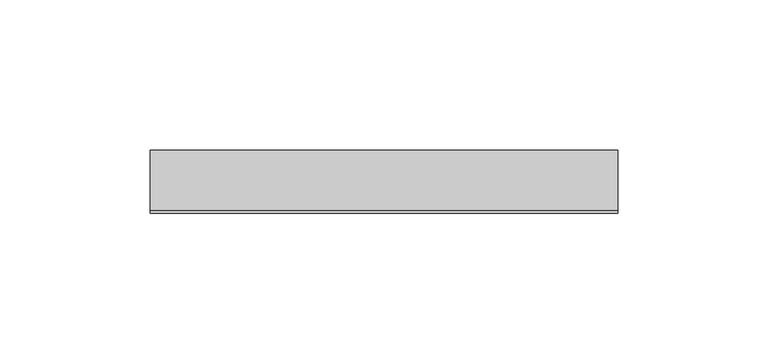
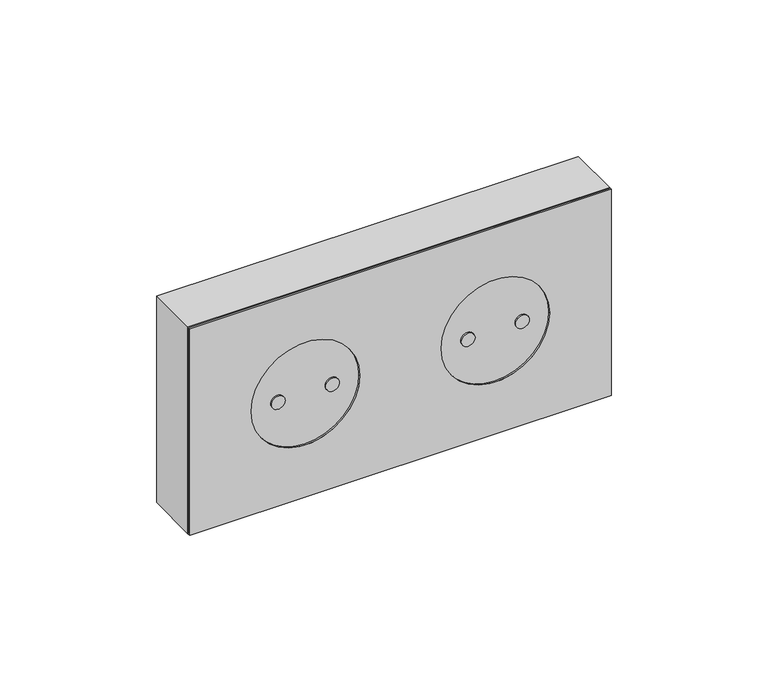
"""IFC4 building model written with IfcOpenShell, lengths in millimetres: proxy geometry, ZYR_05.02.02 Presa Doble : 05 Toma Doble Estanca."""

import ifcopenshell
import ifcopenshell.guid

model = None  # the IFC model being written
_history = None  # IfcOwnerHistory: only IFC2X3 demands one
_inside = {}  # id of a spatial element -> (the spatial element, [elements in it])
_under = {}  # id of a project, library or spatial element -> (it, [spatial elements below it])
_declared = {}  # id of a project -> (the project, [libraries it declares])
_typed = {}  # id of a type object -> (the type object, [elements of that type])
_made_of = {}  # id of a material, layer set ... -> (it, [elements and type objects made of it])


def new_model(schema):
    """Start an empty IFC model of exactly this schema.

    Asked for "IFC4X3", IfcOpenShell would pick the latest addendum, in which some entities
    have other attributes; the version numbers below select the first issue.
    IFC2X3 requires an IfcOwnerHistory on every rooted entity: one is made here for all.
    """
    global model, _history
    if schema == "IFC4X3":
        model = ifcopenshell.file(schema_version=(4, 3, 0, 0))
    else:
        model = ifcopenshell.file(schema=schema)
    _inside.clear()
    _under.clear()
    _declared.clear()
    _typed.clear()
    _made_of.clear()
    _history = None
    if model.schema == "IFC2X3":
        org = make("IfcOrganization", Name="unknown")
        user = make(
            "IfcPersonAndOrganization",
            ThePerson=make("IfcPerson", FamilyName="unknown"),
            TheOrganization=org,
        )
        app = make(
            "IfcApplication",
            ApplicationDeveloper=org,
            Version="unknown",
            ApplicationFullName="unknown",
            ApplicationIdentifier="unknown",
        )
        _history = make(
            "IfcOwnerHistory",
            OwningUser=user,
            OwningApplication=app,
            ChangeAction="ADDED",
            CreationDate=0,
        )
    return model


def make(cls, **values):
    """One entity of the class cls with the attributes given. An attribute that is None is left unset."""
    return model.create_entity(
        cls, **{name: value for name, value in values.items() if value is not None}
    )


def rooted(cls, **values):
    """An entity with a GlobalId (a new one), such as an element, a storey or a relation."""
    return make(cls, GlobalId=ifcopenshell.guid.new(), OwnerHistory=_history, **values)


def si_unit(unit_type, name, prefix=None):
    """IfcSIUnit, for example si_unit("LENGTHUNIT", "METRE", prefix="MILLI")."""
    return make("IfcSIUnit", UnitType=unit_type, Prefix=prefix, Name=name)


def assignment(units):
    """IfcUnitAssignment: the units of a project."""
    return None if units is None else make("IfcUnitAssignment", Units=units)


def point(xyz):
    """IfcCartesianPoint."""
    return None if xyz is None else make("IfcCartesianPoint", Coordinates=xyz)


def direction(xyz):
    """IfcDirection."""
    return None if xyz is None else make("IfcDirection", DirectionRatios=xyz)


def frame(location, z_axis=None, x_axis=None):
    """IfcAxis2Placement3D, a coordinate frame: its origin and axes. An axis left out is left unset."""
    return make(
        "IfcAxis2Placement3D",
        Location=point(location),
        Axis=direction(z_axis),
        RefDirection=direction(x_axis),
    )


def frame_2d(location, x_axis=None):
    """IfcAxis2Placement2D, a coordinate frame in the plane: its origin and x axis."""
    return make(
        "IfcAxis2Placement2D", Location=point(location), RefDirection=direction(x_axis)
    )


def origin():
    """The frame at (0, 0, 0) with its axes left unset."""
    return frame((0.0, 0.0, 0.0))


def place(relative_to, where):
    """IfcLocalPlacement: puts the frame where relative to a parent placement (None: the world)."""
    return make(
        "IfcLocalPlacement", PlacementRelTo=relative_to, RelativePlacement=where
    )


def context(
    kind, dimensions, precision=None, world=None, true_north=None, identifier=None
):
    """IfcGeometricRepresentationContext, for example the 3D "Model" context."""
    return make(
        "IfcGeometricRepresentationContext",
        ContextIdentifier=identifier,
        ContextType=kind,
        CoordinateSpaceDimension=dimensions,
        Precision=precision,
        WorldCoordinateSystem=world,
        TrueNorth=true_north,
    )


def project(units=None, contexts=None):
    """IfcProject with its units and contexts."""
    return rooted(
        "IfcProject",
        Name="project",
        RepresentationContexts=contexts,
        UnitsInContext=assignment(units),
    )


def spatial(cls, under=None, at=None, **own):
    """A site, building, storey or space (cls), placed at a placement, below another one or the project."""
    s = rooted(cls, ObjectPlacement=at, **own)
    if under is not None:
        _under.setdefault(under.id(), (under, []))[1].append(s)
    return s


def polyline(points):
    """IfcPolyline through the points."""
    return make("IfcPolyline", Points=[point(p) for p in points])


def circle_curve(where, radius):
    """IfcCircle in the frame where."""
    return make("IfcCircle", Position=where, Radius=radius)


def trimmed(basis, trim1, trim2, sense, master):
    """IfcTrimmedCurve: the piece of a basis curve between two trims."""
    return make(
        "IfcTrimmedCurve",
        BasisCurve=basis,
        Trim1=trim1,
        Trim2=trim2,
        SenseAgreement=sense,
        MasterRepresentation=master,
    )


def segment(curve, same_sense, transition):
    """IfcCompositeCurveSegment."""
    return make(
        "IfcCompositeCurveSegment",
        Transition=transition,
        SameSense=same_sense,
        ParentCurve=curve,
    )


def composite_curve(segments, self_intersect=None):
    """IfcCompositeCurve: segments joined end to end."""
    return make("IfcCompositeCurve", Segments=segments, SelfIntersect=self_intersect)


def outline(outer, holes=None, kind="AREA"):
    """IfcArbitraryClosedProfileDef: a profile drawn as a closed curve; with holes, ...WithVoids."""
    if holes is None:
        return make("IfcArbitraryClosedProfileDef", ProfileType=kind, OuterCurve=outer)
    return make(
        "IfcArbitraryProfileDefWithVoids",
        ProfileType=kind,
        OuterCurve=outer,
        InnerCurves=holes,
    )


def extrude(swept, where, along, depth):
    """IfcExtrudedAreaSolid: the profile swept, set in the frame where, extruded along a direction by depth."""
    return make(
        "IfcExtrudedAreaSolid",
        SweptArea=swept,
        Position=where,
        ExtrudedDirection=direction(along),
        Depth=depth,
    )


def shape(context_of_items, identifier, shape_type, items):
    """IfcShapeRepresentation: the items that make up one representation, for example the "Body"."""
    return make(
        "IfcShapeRepresentation",
        ContextOfItems=context_of_items,
        RepresentationIdentifier=identifier,
        RepresentationType=shape_type,
        Items=items,
    )


def source(mapping_origin, context_of_items, identifier, shape_type, items):
    """IfcRepresentationMap: a shape defined once, which mapped items show again and again."""
    return make(
        "IfcRepresentationMap",
        MappingOrigin=mapping_origin,
        MappedRepresentation=shape(context_of_items, identifier, shape_type, items),
    )


def transform(
    local_origin,
    x_axis=None,
    y_axis=None,
    z_axis=None,
    scale=None,
    scale2=None,
    scale3=None,
    uniform=True,
):
    """IfcCartesianTransformationOperator3D, or its non-uniform kind. x_axis, y_axis, z_axis: its Axis1, 2, 3."""
    if uniform:
        return make(
            "IfcCartesianTransformationOperator3D",
            Axis1=direction(x_axis),
            Axis2=direction(y_axis),
            LocalOrigin=point(local_origin),
            Scale=scale,
            Axis3=direction(z_axis),
        )
    return make(
        "IfcCartesianTransformationOperator3DnonUniform",
        Axis1=direction(x_axis),
        Axis2=direction(y_axis),
        LocalOrigin=point(local_origin),
        Scale=scale,
        Axis3=direction(z_axis),
        Scale2=scale2,
        Scale3=scale3,
    )


def mapped(mapping_source, mapping_target):
    """IfcMappedItem: shows the shape of a source again, moved by a transform."""
    return make(
        "IfcMappedItem", MappingSource=mapping_source, MappingTarget=mapping_target
    )


def made_of(thing, what):
    """Note that an element or type object is made of a material, layer set ...; save() writes the relation."""
    if what is not None:
        _made_of.setdefault(what.id(), (what, []))[1].append(thing)
    return thing


def element(
    cls,
    number,
    at=None,
    inside=None,
    cuts=None,
    type_object=None,
    material=None,
    context=None,
    identifier="Body",
    shape_type=None,
    held_by="IfcProductDefinitionShape",
    body=None,
    shapes=None,
    **own,
):
    """One element of the class cls, such as IfcWall. Its Tag is "e" and its number.

    at: its placement. inside: the storey or other place that contains it. cuts: it is an
    opening in that element (IfcRelVoidsElement). A single representation is given by context,
    identifier, shape_type and body (its items); several are given by shapes. held_by: the class
    of the entity that holds the representations. save() writes the other relations.
    """
    e = rooted(cls, Tag="e%d" % number, ObjectPlacement=at, **own)
    if body is not None:
        shapes = [shape(context, identifier, shape_type, body)]
    if shapes is not None:
        e.Representation = make(held_by, Representations=shapes)
    if inside is not None:
        _inside.setdefault(inside.id(), (inside, []))[1].append(e)
    if cuts is not None:
        rooted(
            "IfcRelVoidsElement", RelatingBuildingElement=cuts, RelatedOpeningElement=e
        )
    if type_object is not None:
        _typed.setdefault(type_object.id(), (type_object, []))[1].append(e)
    return made_of(e, material)


def aggregate(whole, parts):
    """IfcRelAggregates: a whole, such as a stair, and the parts it consists of."""
    return rooted("IfcRelAggregates", RelatingObject=whole, RelatedObjects=parts)


def save(model, path):
    """Write the relations noted so far, then the file.

    IfcRelAggregates (storeys below a building ...), IfcRelContainedInSpatialStructure (elements
    in a storey), IfcRelDefinesByType, IfcRelAssociatesMaterial and IfcRelDeclares: one each for
    every whole, place, type object, material and project.
    """
    for whole, parts in _under.values():
        aggregate(whole, parts)
    for where, things in _inside.values():
        rooted(
            "IfcRelContainedInSpatialStructure",
            RelatedElements=things,
            RelatingStructure=where,
        )
    for kind, things in _typed.values():
        rooted("IfcRelDefinesByType", RelatedObjects=things, RelatingType=kind)
    for what, things in _made_of.values():
        rooted("IfcRelAssociatesMaterial", RelatedObjects=things, RelatingMaterial=what)
    for by, libraries in _declared.values():
        rooted("IfcRelDeclares", RelatingContext=by, RelatedDefinitions=libraries)
    model.write(path)


def electrical_fixtures_07ad5d65(model_context):
    return source(origin(), model_context, "Body", "SweptSolid", [
        extrude(outline(polyline([(77.75, -20.0), (-77.75, -20.0), (-77.75, 0.0), (77.75, 0.0), (77.75, -20.0)])), frame((0.0, 0.0, -40.25), z_axis=(0.0, 0.0, 1.0), x_axis=(1.0, 0.0, 0.0)), (0.0, 0.0, 1.0), 80.5),
        extrude(outline(polyline([(-40.25, -77.75), (-40.25, 77.75), (40.25, 77.75), (40.25, -77.75), (-40.25, -77.75)]), holes=[composite_curve([segment(trimmed(circle_curve(frame_2d((0.0, -35.0004502)), 20.0), [point((0.0, -55.0004502))], [point((0.0, -15.0004502))], True, "CARTESIAN"), True, "CONTINUOUS"), segment(trimmed(circle_curve(frame_2d((0.0, -35.0004502)), 20.0), [point((0.0, -15.0004502))], [point((0.0, -55.0004502))], True, "CARTESIAN"), True, "CONTINUOUS")], self_intersect=False), composite_curve([segment(trimmed(circle_curve(frame_2d((0.0, 35.0004502)), 20.0), [point((0.0, 15.0004502))], [point((0.0, 55.0004502))], True, "CARTESIAN"), True, "CONTINUOUS"), segment(trimmed(circle_curve(frame_2d((0.0, 35.0004502)), 20.0), [point((0.0, 55.0004502))], [point((0.0, 15.0004502))], True, "CARTESIAN"), True, "CONTINUOUS")], self_intersect=False)]), frame((0.0, -21.0, 0.0), z_axis=(0.0, 1.0, 0.0), x_axis=(0.0, 0.0, 1.0)), (0.0, 0.0, 1.0), 1.0),
        extrude(outline(composite_curve([segment(trimmed(circle_curve(frame_2d((0.0, -45.0004502)), 2.5), [point((0.0, -47.5004502))], [point((0.0, -42.5004502))], False, "CARTESIAN"), True, "CONTINUOUS"), segment(trimmed(circle_curve(frame_2d((0.0, -45.0004502)), 2.5), [point((0.0, -42.5004502))], [point((0.0, -47.5004502))], False, "CARTESIAN"), True, "CONTINUOUS")], self_intersect=False)), frame((0.0, -21.0, 0.0), z_axis=(0.0, 1.0, 0.0), x_axis=(0.0, 0.0, 1.0)), (0.0, 0.0, 1.0), 1.0),
        extrude(outline(composite_curve([segment(trimmed(circle_curve(frame_2d((0.0, -25.0004502)), 2.5), [point((0.0, -27.5004502))], [point((0.0, -22.5004502))], False, "CARTESIAN"), True, "CONTINUOUS"), segment(trimmed(circle_curve(frame_2d((0.0, -25.0004502)), 2.5), [point((0.0, -22.5004502))], [point((0.0, -27.5004502))], False, "CARTESIAN"), True, "CONTINUOUS")], self_intersect=False)), frame((0.0, -21.0, 0.0), z_axis=(0.0, 1.0, 0.0), x_axis=(0.0, 0.0, 1.0)), (0.0, 0.0, 1.0), 1.0),
        extrude(outline(composite_curve([segment(trimmed(circle_curve(frame_2d((0.0, 25.0004502)), 2.5), [point((0.0, 22.5004502))], [point((0.0, 27.5004502))], False, "CARTESIAN"), True, "CONTINUOUS"), segment(trimmed(circle_curve(frame_2d((0.0, 25.0004502)), 2.5), [point((0.0, 27.5004502))], [point((0.0, 22.5004502))], False, "CARTESIAN"), True, "CONTINUOUS")], self_intersect=False)), frame((0.0, -21.0, 0.0), z_axis=(0.0, 1.0, 0.0), x_axis=(0.0, 0.0, 1.0)), (0.0, 0.0, 1.0), 1.0),
        extrude(outline(composite_curve([segment(trimmed(circle_curve(frame_2d((0.0, 45.0004502)), 2.5), [point((0.0, 42.5004502))], [point((0.0, 47.5004502))], False, "CARTESIAN"), True, "CONTINUOUS"), segment(trimmed(circle_curve(frame_2d((0.0, 45.0004502)), 2.5), [point((0.0, 47.5004502))], [point((0.0, 42.5004502))], False, "CARTESIAN"), True, "CONTINUOUS")], self_intersect=False)), frame((0.0, -21.0, 0.0), z_axis=(0.0, 1.0, 0.0), x_axis=(0.0, 0.0, 1.0)), (0.0, 0.0, 1.0), 1.0),
    ])


if __name__ == "__main__":
    model = new_model("IFC4")
    model_context = context("Model", 3, world=origin())
    ifc_project = project(units=[si_unit("LENGTHUNIT", "METRE", prefix="MILLI")], contexts=[model_context])
    site = spatial("IfcSite", under=ifc_project)
    building = spatial("IfcBuilding", under=site)
    placement = place(None, origin())
    electrical_fixtures_shape = electrical_fixtures_07ad5d65(model_context)
    element("IfcBuildingElementProxy", 1, Name="ZYR_05.02.02 Presa Doble : 05 Toma Doble Estanca", ObjectType="ZYR_05.02.02 Presa Doble : 05 Toma Doble Estanca", at=placement, inside=building, context=model_context, shape_type="MappedRepresentation", body=[
        mapped(electrical_fixtures_shape, transform((0.0, 0.0, 0.0), x_axis=(1.0, 0.0, 0.0), y_axis=(0.0, 1.0, 0.0), z_axis=(0.0, 0.0, 1.0))),
    ])
    save(model, "model.ifc")
